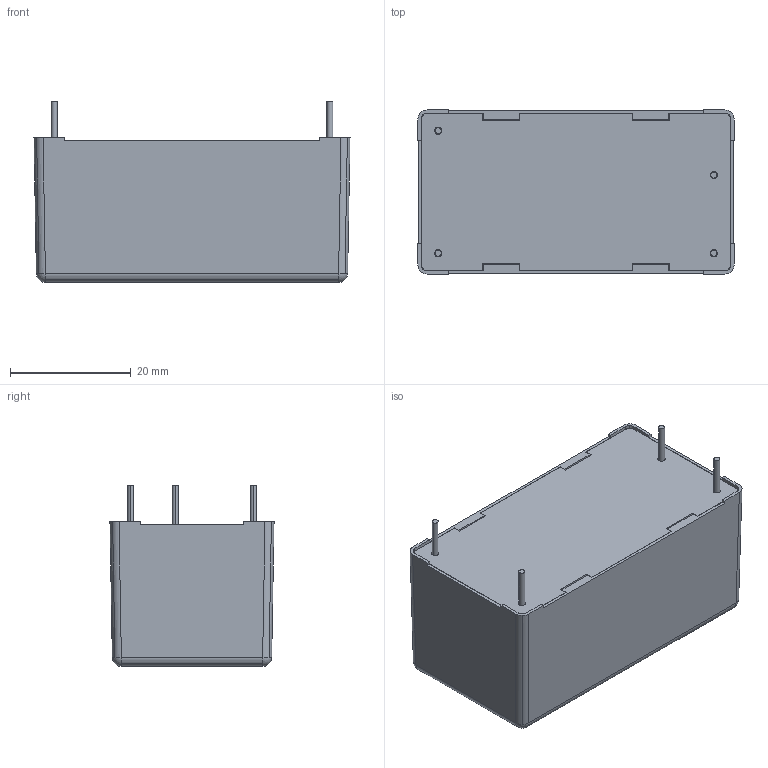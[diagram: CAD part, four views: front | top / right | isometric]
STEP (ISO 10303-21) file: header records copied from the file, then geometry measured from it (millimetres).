
FILE_DESCRIPTION (( 'STEP AP214' ), '1' );
FILE_NAME ('AMF-15S051.STEP', '2024-03-07T10:01:25', ( '' ), ( '' ), 'SwSTEP 2.0', 'SolidWorks 2021', '' );
FILE_SCHEMA (( 'AUTOMOTIVE_DESIGN' ));
Length unit declared in the file: millimetre
Products named in the file (3): AMF-15 PCB Mounting CASE_default; AMF-15 PCB Mounting BASE_default; AMF-15S051
Assembly tree (2 placements, depth 2):
  AMF-15S051
    AMF-15 PCB Mounting CASE_default
    AMF-15 PCB Mounting BASE_default
Bounding box: 52.42 x 27.22 x 30 mm (x, y, z)
Volume: 32629.2 mm3; surface area: 9452.3 mm2
Topology: 2 solids, 2 shells, 164 faces, 445 edges, 290 vertices
Faces by surface type: plane 90, cylinder 62, cone 8, sphere 4
Entity records: 7083 total; most frequent: CARTESIAN_POINT 928, DIRECTION 899, ORIENTED_EDGE 890, EDGE_CURVE 445, VECTOR 313, LINE 313, AXIS2_PLACEMENT_3D 293, VERTEX_POINT 290
